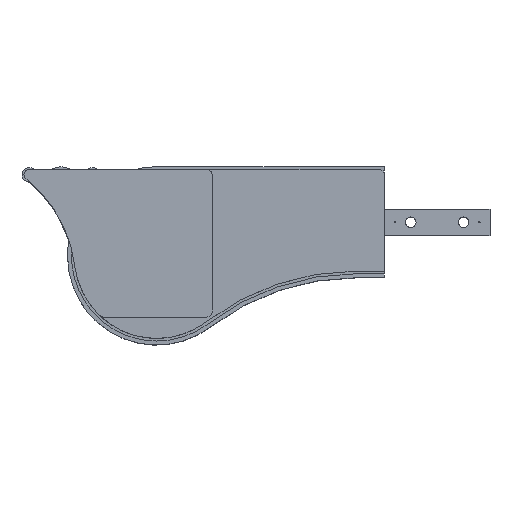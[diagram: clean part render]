
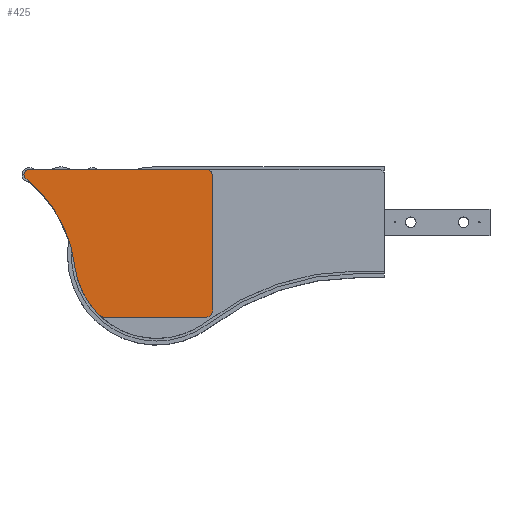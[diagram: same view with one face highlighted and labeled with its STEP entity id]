
A CAD part, top view. The second image highlights one B-rep face of the part: STEP entity #425.
In plain terms, the highlighted planar face has unit normal (0, 0, 1).
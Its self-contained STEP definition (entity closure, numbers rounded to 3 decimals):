
#65 = ORIENTED_EDGE ( 'NONE', *, *, #1873, .T. ) ;
#89 = CARTESIAN_POINT ( 'NONE',  ( -31.492, 32.871, 75.8 ) ) ;
#155 = DIRECTION ( 'NONE',  ( 0., 0., -1. ) ) ;
#189 = VERTEX_POINT ( 'NONE', #1957 ) ;
#204 = DIRECTION ( 'NONE',  ( -1., 0., 0. ) ) ;
#370 = AXIS2_PLACEMENT_3D ( 'NONE', #4973, #3380, #2544 ) ;
#385 = CARTESIAN_POINT ( 'NONE',  ( 110., 34.5, 75.8 ) ) ;
#425 = ADVANCED_FACE ( 'NONE', ( #4805 ), #1772, .F. ) ;
#431 = LINE ( 'NONE', #3774, #2299 ) ;
#441 = AXIS2_PLACEMENT_3D ( 'NONE', #2943, #2980, #1034 ) ;
#504 = CIRCLE ( 'NONE', #1333, 5.5 ) ;
#506 = CARTESIAN_POINT ( 'NONE',  ( -29., 36., 75.8 ) ) ;
#543 = EDGE_CURVE ( 'NONE', #768, #1689, #504, .T. ) ;
#569 = DIRECTION ( 'NONE',  ( -1., 0., 0. ) ) ;
#578 = CARTESIAN_POINT ( 'NONE',  ( 27.902, -72., 75.8 ) ) ;
#607 = VERTEX_POINT ( 'NONE', #1418 ) ;
#616 = DIRECTION ( 'NONE',  ( 0., 0., 1. ) ) ;
#768 = VERTEX_POINT ( 'NONE', #4080 ) ;
#1034 = DIRECTION ( 'NONE',  ( -1., 0., 0. ) ) ;
#1062 = DIRECTION ( 'NONE',  ( 0., 0., 1. ) ) ;
#1090 = ORIENTED_EDGE ( 'NONE', *, *, #543, .T. ) ;
#1100 = CARTESIAN_POINT ( 'NONE',  ( 110., -66.5, 75.8 ) ) ;
#1180 = EDGE_CURVE ( 'NONE', #1547, #607, #431, .T. ) ;
#1228 = AXIS2_PLACEMENT_3D ( 'NONE', #506, #4042, #3300 ) ;
#1333 = AXIS2_PLACEMENT_3D ( 'NONE', #3842, #1062, #204 ) ;
#1348 = ORIENTED_EDGE ( 'NONE', *, *, #2501, .T. ) ;
#1418 = CARTESIAN_POINT ( 'NONE',  ( -29., 40., 75.8 ) ) ;
#1435 = CARTESIAN_POINT ( 'NONE',  ( 5.468, -33.138, 75.8 ) ) ;
#1444 = DIRECTION ( 'NONE',  ( 0., 1., 0. ) ) ;
#1547 = VERTEX_POINT ( 'NONE', #1590 ) ;
#1558 = VERTEX_POINT ( 'NONE', #89 ) ;
#1590 = CARTESIAN_POINT ( 'NONE',  ( 104.5, 40., 75.8 ) ) ;
#1650 = VERTEX_POINT ( 'NONE', #3349 ) ;
#1655 = EDGE_CURVE ( 'NONE', #4360, #768, #3056, .T. ) ;
#1689 = VERTEX_POINT ( 'NONE', #578 ) ;
#1694 = CIRCLE ( 'NONE', #1228, 4. ) ;
#1758 = EDGE_CURVE ( 'NONE', #2250, #2366, #4044, .T. ) ;
#1772 = PLANE ( 'NONE',  #3911 ) ;
#1790 = DIRECTION ( 'NONE',  ( 0., 0., 1. ) ) ;
#1873 = EDGE_CURVE ( 'NONE', #1689, #1650, #4909, .T. ) ;
#1879 = ORIENTED_EDGE ( 'NONE', *, *, #2160, .T. ) ;
#1957 = CARTESIAN_POINT ( 'NONE',  ( -33., 36., 75.8 ) ) ;
#1984 = VECTOR ( 'NONE', #1444, 1000. ) ;
#2160 = EDGE_CURVE ( 'NONE', #607, #189, #2283, .T. ) ;
#2250 = VERTEX_POINT ( 'NONE', #1100 ) ;
#2283 = CIRCLE ( 'NONE', #370, 4. ) ;
#2299 = VECTOR ( 'NONE', #4593, 1000. ) ;
#2325 = ORIENTED_EDGE ( 'NONE', *, *, #1758, .T. ) ;
#2350 = ORIENTED_EDGE ( 'NONE', *, *, #4014, .T. ) ;
#2357 = ORIENTED_EDGE ( 'NONE', *, *, #4809, .T. ) ;
#2366 = VERTEX_POINT ( 'NONE', #385 ) ;
#2501 = EDGE_CURVE ( 'NONE', #1558, #4360, #2789, .T. ) ;
#2544 = DIRECTION ( 'NONE',  ( 1., 0., 0. ) ) ;
#2557 = ORIENTED_EDGE ( 'NONE', *, *, #2908, .T. ) ;
#2563 = CARTESIAN_POINT ( 'NONE',  ( 67.5, -25.5, 75.8 ) ) ;
#2751 = AXIS2_PLACEMENT_3D ( 'NONE', #3193, #5160, #3599 ) ;
#2760 = ORIENTED_EDGE ( 'NONE', *, *, #1180, .T. ) ;
#2789 = CIRCLE ( 'NONE', #441, 100. ) ;
#2908 = EDGE_CURVE ( 'NONE', #1650, #2250, #3035, .T. ) ;
#2943 = CARTESIAN_POINT ( 'NONE',  ( -93.782, -45.359, 75.8 ) ) ;
#2980 = DIRECTION ( 'NONE',  ( 0., 0., -1. ) ) ;
#3035 = CIRCLE ( 'NONE', #3119, 5.5 ) ;
#3056 = CIRCLE ( 'NONE', #3882, 62.5 ) ;
#3119 = AXIS2_PLACEMENT_3D ( 'NONE', #3785, #1790, #3765 ) ;
#3154 = CARTESIAN_POINT ( 'NONE',  ( 104.5, -72., 75.8 ) ) ;
#3193 = CARTESIAN_POINT ( 'NONE',  ( 104.5, 34.5, 75.8 ) ) ;
#3300 = DIRECTION ( 'NONE',  ( 1., 0., 0. ) ) ;
#3347 = CIRCLE ( 'NONE', #2751, 5.5 ) ;
#3349 = CARTESIAN_POINT ( 'NONE',  ( 104.5, -72., 75.8 ) ) ;
#3380 = DIRECTION ( 'NONE',  ( 0., 0., 1. ) ) ;
#3442 = CARTESIAN_POINT ( 'NONE',  ( 110., 34.5, 75.8 ) ) ;
#3550 = ORIENTED_EDGE ( 'NONE', *, *, #1655, .T. ) ;
#3599 = DIRECTION ( 'NONE',  ( -1., 0., 0. ) ) ;
#3765 = DIRECTION ( 'NONE',  ( -1., 0., 0. ) ) ;
#3774 = CARTESIAN_POINT ( 'NONE',  ( 104.5, 40., 75.8 ) ) ;
#3785 = CARTESIAN_POINT ( 'NONE',  ( 104.5, -66.5, 75.8 ) ) ;
#3842 = CARTESIAN_POINT ( 'NONE',  ( 27.902, -66.5, 75.8 ) ) ;
#3882 = AXIS2_PLACEMENT_3D ( 'NONE', #2563, #616, #4904 ) ;
#3911 = AXIS2_PLACEMENT_3D ( 'NONE', #4176, #155, #569 ) ;
#3927 = EDGE_LOOP ( 'NONE', ( #2350, #2760, #1879, #2357, #1348, #3550, #1090, #65, #2557, #2325 ) ) ;
#4014 = EDGE_CURVE ( 'NONE', #2366, #1547, #3347, .T. ) ;
#4042 = DIRECTION ( 'NONE',  ( 0., 0., 1. ) ) ;
#4044 = LINE ( 'NONE', #3442, #1984 ) ;
#4080 = CARTESIAN_POINT ( 'NONE',  ( 24.081, -70.456, 75.8 ) ) ;
#4171 = VECTOR ( 'NONE', #4748, 1000. ) ;
#4176 = CARTESIAN_POINT ( 'NONE',  ( 104.5, 34.5, 75.8 ) ) ;
#4360 = VERTEX_POINT ( 'NONE', #1435 ) ;
#4593 = DIRECTION ( 'NONE',  ( -1., 0., 0. ) ) ;
#4748 = DIRECTION ( 'NONE',  ( 1., 0., 0. ) ) ;
#4805 = FACE_OUTER_BOUND ( 'NONE', #3927, .T. ) ;
#4809 = EDGE_CURVE ( 'NONE', #189, #1558, #1694, .T. ) ;
#4904 = DIRECTION ( 'NONE',  ( 1., 0., 0. ) ) ;
#4909 = LINE ( 'NONE', #3154, #4171 ) ;
#4973 = CARTESIAN_POINT ( 'NONE',  ( -29., 36., 75.8 ) ) ;
#5160 = DIRECTION ( 'NONE',  ( 0., 0., 1. ) ) ;
